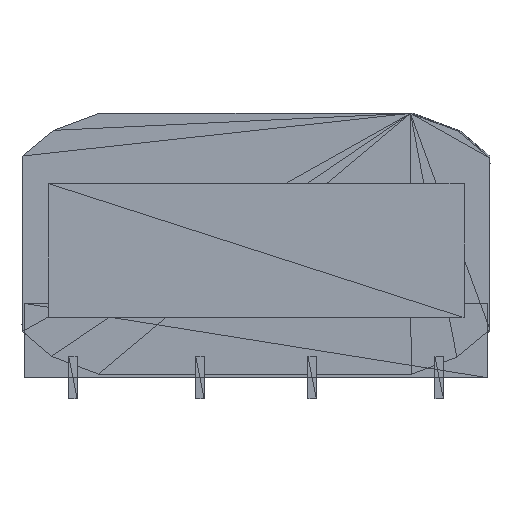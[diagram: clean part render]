
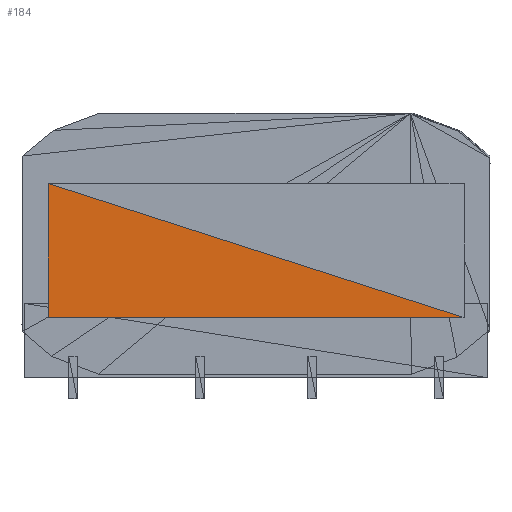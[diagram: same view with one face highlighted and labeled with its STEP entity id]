
A CAD part, left-side view. The second image highlights one B-rep face of the part: STEP entity #184.
In plain terms, the highlighted planar face has unit normal (-1, 0, 0).
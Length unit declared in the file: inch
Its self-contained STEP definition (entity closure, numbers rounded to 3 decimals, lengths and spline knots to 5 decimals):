
#68=CARTESIAN_POINT('',(-1.47595,0.98202,0.91657));
#69=VERTEX_POINT('',#68);
#98=CARTESIAN_POINT('',(-1.47595,-0.98226,0.28419));
#99=VERTEX_POINT('',#98);
#100=CARTESIAN_POINT('',(-1.47595,-0.98226,0.28419));
#101=DIRECTION('',(0.,0.952,0.306));
#102=VECTOR('',#101,2.06357);
#103=LINE('',#100,#102);
#104=EDGE_CURVE('',#99,#69,#103,.T.);
#162=CARTESIAN_POINT('',(-1.47595,0.98202,0.91657));
#163=DIRECTION('',(1.,0.,0.));
#164=DIRECTION('',(0.,1.,0.));
#165=AXIS2_PLACEMENT_3D('',#162,#163,#164);
#166=PLANE('',#165);
#167=CARTESIAN_POINT('',(-1.47595,0.98215,0.28459));
#168=VERTEX_POINT('',#167);
#169=CARTESIAN_POINT('',(-1.47595,0.98215,0.28459));
#170=DIRECTION('',(0.,0.,1.));
#171=VECTOR('',#170,0.63198);
#172=LINE('',#169,#171);
#173=EDGE_CURVE('',#168,#69,#172,.T.);
#174=ORIENTED_EDGE('',*,*,#173,.F.);
#175=CARTESIAN_POINT('',(-1.47595,-0.98226,0.28419));
#176=DIRECTION('',(0.,1.,0.));
#177=VECTOR('',#176,1.96441);
#178=LINE('',#175,#177);
#179=EDGE_CURVE('',#99,#168,#178,.T.);
#180=ORIENTED_EDGE('',*,*,#179,.F.);
#181=ORIENTED_EDGE('',*,*,#104,.T.);
#182=EDGE_LOOP('',(#174,#180,#181));
#183=FACE_BOUND('',#182,.T.);
#184=ADVANCED_FACE('',(#183),#166,.F.);
